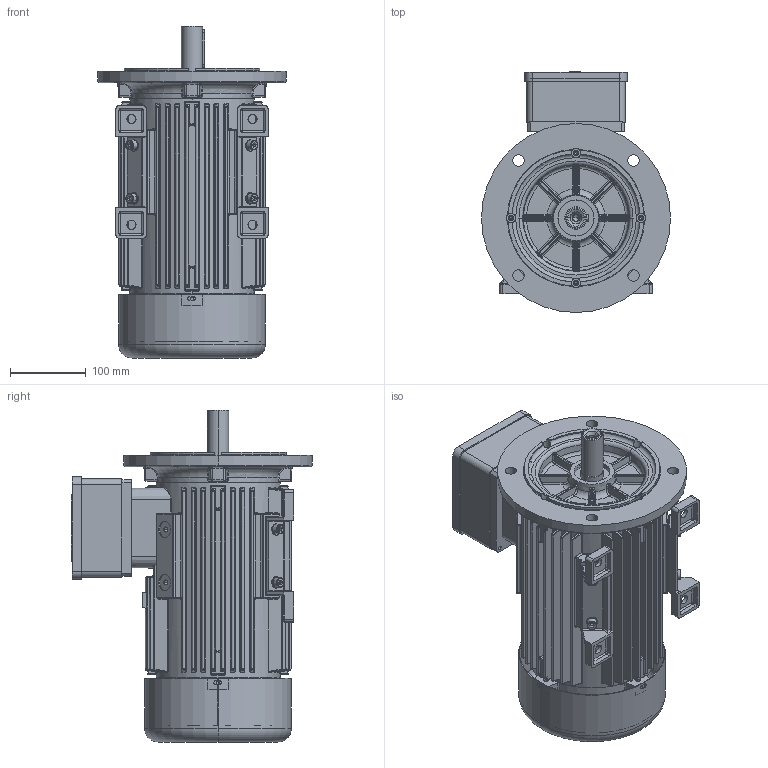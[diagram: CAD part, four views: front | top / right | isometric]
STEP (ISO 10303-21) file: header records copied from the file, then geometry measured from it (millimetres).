
FILE_DESCRIPTION (( 'STEP AP203' ), '1' );
FILE_NAME ('7AT 100 Exde.STEP', '2018-06-08T05:39:55', ( '' ), ( '' ), 'SwSTEP 2.0', 'SolidWorks 2017', '' );
FILE_SCHEMA (( 'CONFIG_CONTROL_DESIGN' ));
Length unit declared in the file: millimetre
Products named in the file (1): 7AT 100 Exde
Bounding box: 249.9 x 318.75 x 439 mm (x, y, z)
Volume: 4259807 mm3; surface area: 1188114 mm2
Topology: 31 solids, 31 shells, 3352 faces, 8030 edges, 4649 vertices
Faces by surface type: cylinder 1138, bspline 956, plane 756, torus 250, cone 168, sphere 84
Entity records: 130533 total; most frequent: CARTESIAN_POINT 61200, ORIENTED_EDGE 15572, DIRECTION 13252, EDGE_CURVE 7786, AXIS2_PLACEMENT_3D 5352, VERTEX_POINT 4649, EDGE_LOOP 3617, FACE_OUTER_BOUND 3352
